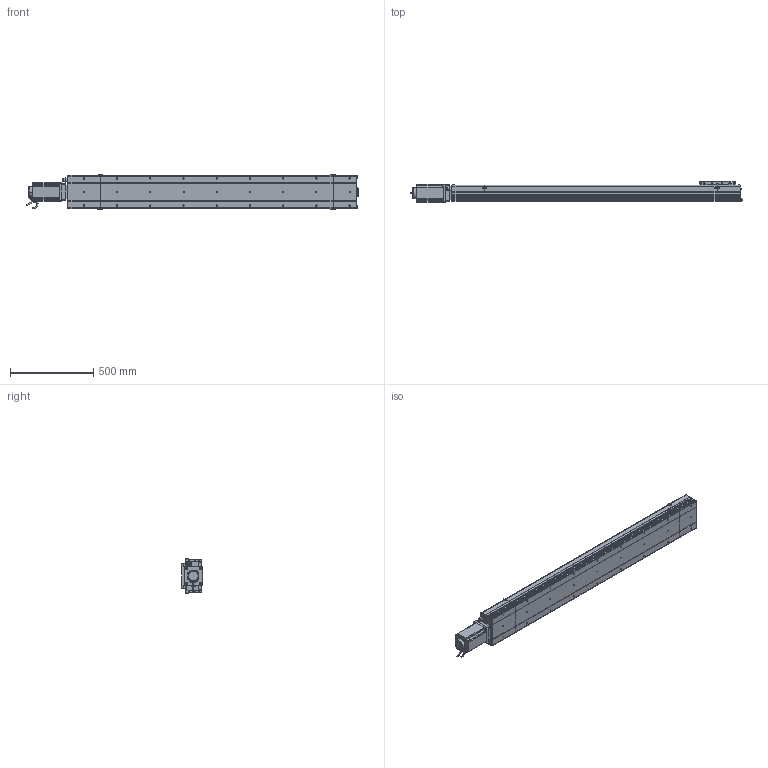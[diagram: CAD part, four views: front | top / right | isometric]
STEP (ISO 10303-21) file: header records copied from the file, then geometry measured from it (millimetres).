
FILE_DESCRIPTION (( 'STEP AP214' ), '1' );
FILE_NAME ('D20 CSH MD S1400.STEP', '2010-06-30T08:24:22', ( 'Conseil Régional Haute-Normandie' ), ( 'Conseil Régional Haute-Normandie' ), 'SwSTEP 2.0', 'SolidWorks 2010', '' );
FILE_SCHEMA (( 'AUTOMOTIVE_DESIGN' ));
Length unit declared in the file: millimetre
Products named in the file (28): Couvercle S1400_Default; D20 CSH MD S1400; Tail D20_Default; Couvercle_Default; Corp Tail D20_Default; Corp S1400_Default; Corp D20 S1400_Default; Plaque De Serrage D20_Default; Plaque de Bout Tail D20_Default; Glissiere_Default; Chariot D20_Default; vis M5 L15_Default; Support Chariot D20_Default; clavette; Conecteur_Default; Conecteur2_Default; codeur 110BLDC170A-630x; Moteur motionking 110BLDC170A-640x; vis M8 L15_Default; Plaque racord D20_Default; Plaque De Serrage Head D20_Default; corps 110BLDC170A-630x; avant 110BLDC170A-630x; Head D20 MD_Default; Corp Head D20_Default; Plaque de Bout Head D20_Default; Couvercle Head_Default
Assembly tree (53 placements, depth 4):
  D20 CSH MD S1400
    Tail D20_Default
      vis M5 L15_Default  x6
      Plaque de Bout Tail D20_Default
      Corp Tail D20_Default
      Plaque De Serrage D20_Default
      Couvercle_Default
    Corp D20 S1400_Default
      Corp S1400_Default
      Couvercle S1400_Default
    Chariot D20_Default
      vis M5 L15_Default  x8
      Chariot D20_Default
      Support Chariot D20_Default
      Glissiere_Default
    Head D20 MD_Default
      vis M8 L15_Default  x4
      vis M5 L15_Default  x10
      Plaque de Bout Head D20_Default
      Corp Head D20_Default
      Plaque racord D20_Default
      Couvercle Head_Default
      Moteur motionking 110BLDC170A-640x
        Conecteur2_Default
        clavette
        corps 110BLDC170A-630x
        codeur 110BLDC170A-630x
        Conecteur_Default
        avant 110BLDC170A-630x
      Plaque De Serrage Head D20_Default
Bounding box: 1999 x 125.5 x 206 mm (x, y, z)
Volume: 14022811.6 mm3; surface area: 2503760.3 mm2
Topology: 90 solids, 90 shells, 3430 faces, 8627 edges, 5637 vertices
Faces by surface type: plane 1947, bspline 758, cylinder 587, torus 79, cone 59
Entity records: 153339 total; most frequent: CARTESIAN_POINT 79415, ORIENTED_EDGE 14650, DIRECTION 10979, EDGE_CURVE 7325, VERTEX_POINT 4857, LINE 4793, VECTOR 4793, EDGE_LOOP 3120
